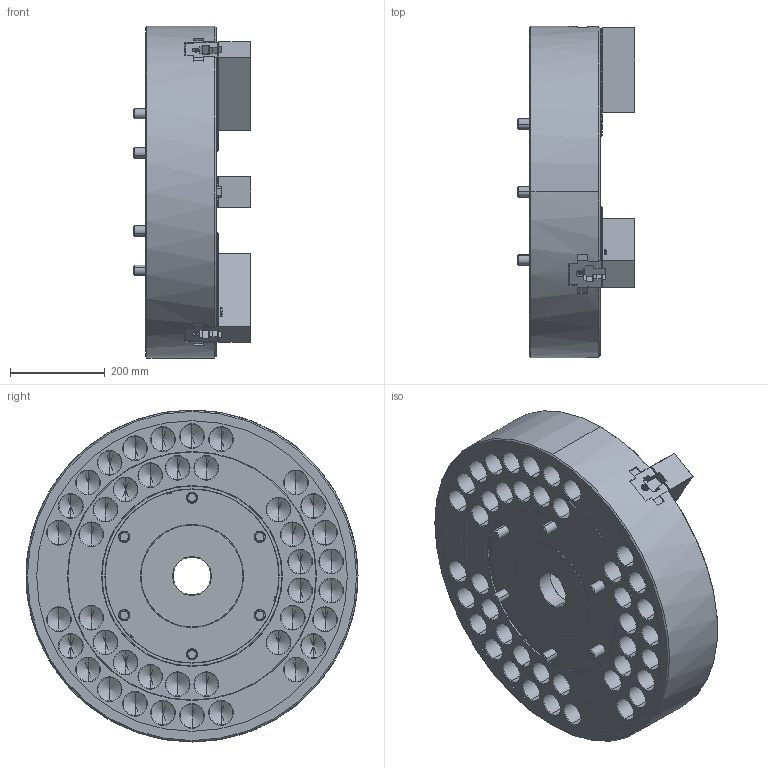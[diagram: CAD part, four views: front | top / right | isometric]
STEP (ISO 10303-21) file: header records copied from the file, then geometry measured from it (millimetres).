
FILE_DESCRIPTION (( 'STEP AP214' ), '1' );
FILE_NAME ('OC_B-28.STEP', '2026-01-22T05:28:38', ( '' ), ( '' ), 'SwSTEP 2.0', 'SolidWorks 2022', '' );
FILE_SCHEMA (( 'AUTOMOTIVE_DESIGN' ));
Length unit declared in the file: millimetre
Products named in the file (11): Copy of 61P329613^HP用3Dモデル_B-28_61P264033; Copy of 0030120060^HP用3Dモデル_B-28_61P264033; Copy of 0030122150^HP用3Dモデル_B-28_61P264033; OC_B-28; Copy of P32262^HP用3Dモデル_B-28_61P264033; Copy of 0230004700^HP用3Dモデル_B-28_61P264033; Copy of 61P405602^HP用3Dモデル_B-28_61P264033; Copy of 61P809786^HP用3Dモデル_B-28_61P264033_社外提出用; Part6^HP用3Dモデル_B-28_61P264033; Copy of P42577^HP用3Dモデル_B-28_61P264033; Copy of 0030106016^HP用3Dモデル_B-28_61P264033
Assembly tree (29 placements, depth 2):
  OC_B-28
    Copy of P32262^HP用3Dモデル_B-28_61P264033  x3
    Copy of 61P405602^HP用3Dモデル_B-28_61P264033  x3
    Copy of 61P809786^HP用3Dモデル_B-28_61P264033_社外提出用
    Copy of 61P329613^HP用3Dモデル_B-28_61P264033
    Copy of P42577^HP用3Dモデル_B-28_61P264033
    Copy of 0030120060^HP用3Dモデル_B-28_61P264033  x6
    Copy of 0030122150^HP用3Dモデル_B-28_61P264033  x6
    Copy of 0230004700^HP用3Dモデル_B-28_61P264033
    Copy of 0030106016^HP用3Dモデル_B-28_61P264033  x6
    Part6^HP用3Dモデル_B-28_61P264033
Bounding box: 248 x 700 x 700 mm (x, y, z)
Volume: 46462584 mm3; surface area: 2874139.5 mm2
Topology: 29 solids, 35 shells, 8891 faces, 25297 edges, 16598 vertices
Faces by surface type: plane 5412, cylinder 1719, bspline 985, cone 689, torus 78, sphere 8
Entity records: 255898 total; most frequent: CARTESIAN_POINT 81928, ORIENTED_EDGE 39548, DIRECTION 30836, EDGE_CURVE 19774, VECTOR 14498, LINE 14498, VERTEX_POINT 13042, AXIS2_PLACEMENT_3D 8169
